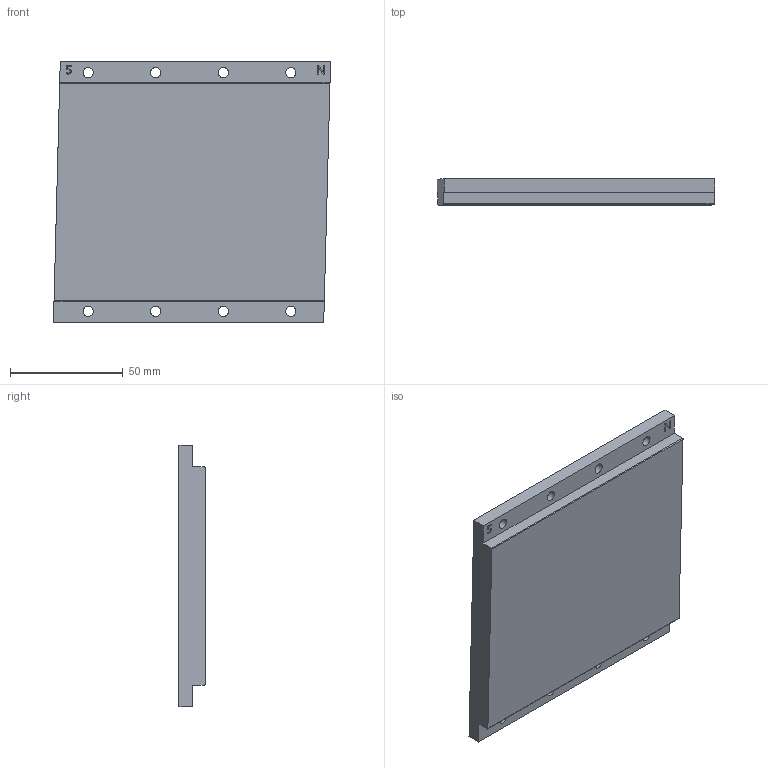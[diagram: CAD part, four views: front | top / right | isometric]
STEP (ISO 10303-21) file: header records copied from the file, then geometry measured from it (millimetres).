
FILE_DESCRIPTION( ( 'Unknown' ), '1' );
FILE_NAME( 'C:/Users/gyt/Desktop/电机制造图/DPD/DPD修改/官网3D/DPD116M120.stp', 'Unknown', ( 'Unknown' ), ( 'Unknown' ), 'PSStep 17.0.49', 'Unknown', ' ' );
FILE_SCHEMA( ( 'AUTOMOTIVE_DESIGN { 1 0 10303 214 1 1 1 1 }' ) );
Length unit declared in the file: millimetre
Products named in the file (1): 1
Bounding box: 123.03 x 11.6 x 116 mm (x, y, z)
Volume: 147930.3 mm3; surface area: 33489.6 mm2
Topology: 1 solids, 1 shells, 38 faces, 102 edges, 68 vertices
Faces by surface type: plane 22, cylinder 10, extrusion 6
Full cylindrical faces by diameter (mm): 4.5 x8
Entity records: 1731 total; most frequent: CARTESIAN_POINT 498, ORIENTED_EDGE 188, DIRECTION 154, EDGE_CURVE 94, VERTEX_POINT 68, EDGE_LOOP 64, AXIS2_PLACEMENT_3D 53, VECTOR 48
